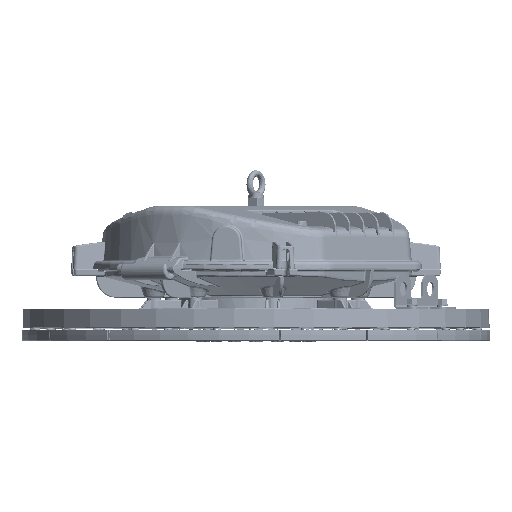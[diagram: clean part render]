
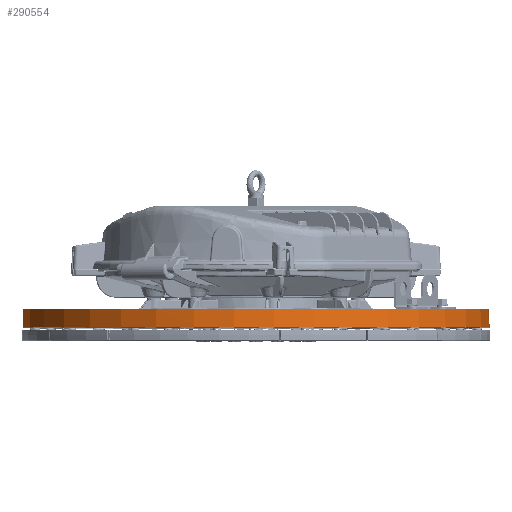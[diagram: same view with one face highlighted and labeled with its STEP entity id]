
A CAD part, top view. The second image highlights one B-rep face of the part: STEP entity #290554.
In plain terms, the highlighted conical face has half-angle 2 degrees and reference radius 304.397 mm.
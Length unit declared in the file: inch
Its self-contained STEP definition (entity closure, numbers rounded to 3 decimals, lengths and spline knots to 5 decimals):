
#14794=CARTESIAN_POINT('',(0.,0.363,0.));
#14795=DIRECTION('',(0.,-1.,0.));
#14796=DIRECTION('',(0.287,0.,-0.958));
#14797=AXIS2_PLACEMENT_3D('',#14794,#14795,#14796);
#14799=CARTESIAN_POINT('',(0.,1.27105,0.));
#14800=DIRECTION('',(0.,-1.,0.));
#14801=DIRECTION('',(0.287,0.,-0.958));
#14802=AXIS2_PLACEMENT_3D('',#14799,#14800,#14801);
#29794=DIRECTION('',(-0.012,0.999,0.033));
#29795=VECTOR('',#29794,0.9086);
#29796=CARTESIAN_POINT('',(3.44692,0.363,-11.49429));
#29797=LINE('',#29796,#29795);
#29803=DIRECTION('',(-0.002,-0.999,-0.035));
#29804=VECTOR('',#29803,0.9086);
#29805=CARTESIAN_POINT('',(-1.19069,1.27105,
-11.90891));
#29806=LINE('',#29805,#29804);
#250852=CARTESIAN_POINT('',(3.44692,0.363,-11.49429));
#250853=VERTEX_POINT('',#250852);
#250854=CARTESIAN_POINT('',(-1.19237,0.363,
-11.94061));
#250855=VERTEX_POINT('',#250854);
#250856=CARTESIAN_POINT('',(3.43639,1.27105,
-11.46434));
#250857=CARTESIAN_POINT('',(-1.19069,1.27105,
-11.90891));
#250858=VERTEX_POINT('',#250856);
#250859=VERTEX_POINT('',#250857);
#290540=CARTESIAN_POINT('',(0.,0.81702,0.));
#290541=DIRECTION('',(0.,-1.,0.));
#290542=DIRECTION('',(-0.383,0.,0.924));
#290543=AXIS2_PLACEMENT_3D('',#290540,#290541,#290542);
#290544=CONICAL_SURFACE('',#290543,11.98415,2.);
#290546=ORIENTED_EDGE('',*,*,#290545,.T.);
#290548=ORIENTED_EDGE('',*,*,#290547,.T.);
#290549=ORIENTED_EDGE('',*,*,#290533,.F.);
#290551=ORIENTED_EDGE('',*,*,#290550,.T.);
#290552=EDGE_LOOP('',(#290546,#290548,#290549,#290551));
#290553=FACE_OUTER_BOUND('',#290552,.F.);
#290554=ADVANCED_FACE('',(#290553),#290544,.F.);
#14798=CIRCLE('',#14797,12.);
#14803=CIRCLE('',#14802,11.96829);
#290533=EDGE_CURVE('',#250853,#250855,#14798,.T.);
#290545=EDGE_CURVE('',#250858,#250859,#14803,.T.);
#290547=EDGE_CURVE('',#250859,#250855,#29806,.T.);
#290550=EDGE_CURVE('',#250853,#250858,#29797,.T.);
